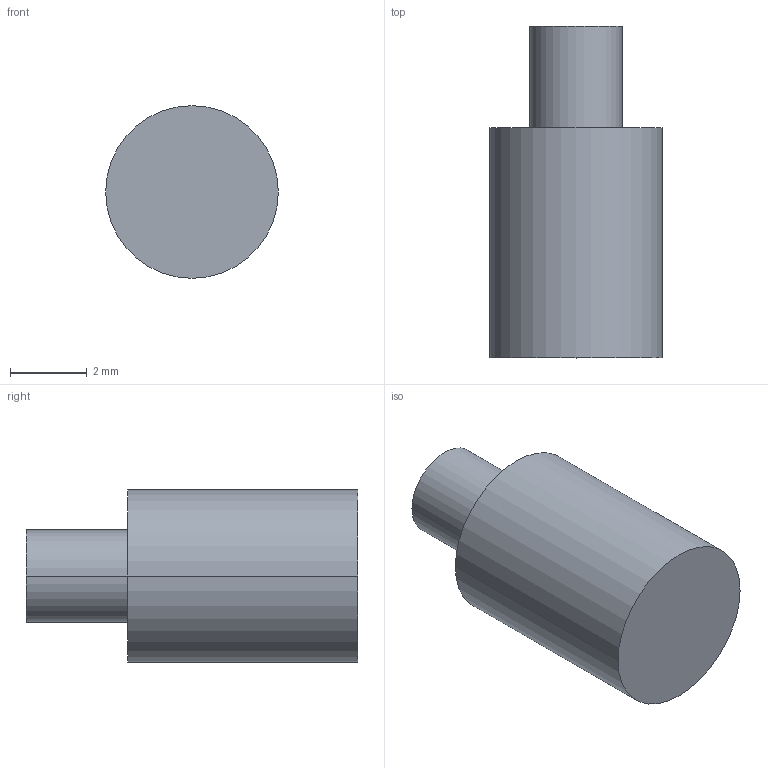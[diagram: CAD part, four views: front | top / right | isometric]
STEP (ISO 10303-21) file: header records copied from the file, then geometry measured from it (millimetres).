
FILE_DESCRIPTION((''),'2;1');
FILE_NAME('GPS-ANT-EXT-PLUG-S_PRT','2008-06-30T',('GRA'),(''),'PRO/ENGINEER BY PARAMETRIC TECHNOLOGY CORPORATION, 2006170','PRO/ENGINEER BY PARAMETRIC TECHNOLOGY CORPORATION, 2006170','');
FILE_SCHEMA(('CONFIG_CONTROL_DESIGN'));
Length unit declared in the file: millimetre
Products named in the file (1): GPS-ANT-EXT-PLUG-S_PRT
Bounding box: 4.5 x 8.65 x 4.5 mm (x, y, z)
Volume: 107.4 mm3; surface area: 136.6 mm2
Topology: 1 solids, 1 shells, 7 faces, 12 edges, 8 vertices
Faces by surface type: cylinder 4, plane 3
Entity records: 212 total; most frequent: DIRECTION 34, CARTESIAN_POINT 27, ORIENTED_EDGE 24, AXIS2_PLACEMENT_3D 15, EDGE_CURVE 12, VERTEX_POINT 8, EDGE_LOOP 8, CIRCLE 8
